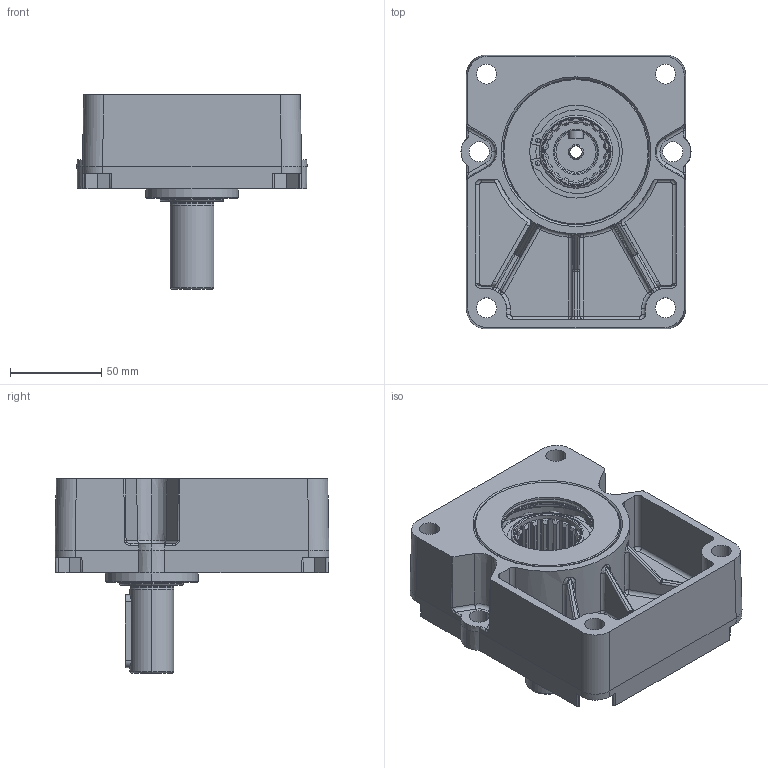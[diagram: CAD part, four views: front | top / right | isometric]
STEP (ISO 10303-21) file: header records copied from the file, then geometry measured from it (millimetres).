
FILE_DESCRIPTION (( 'STEP AP203' ), '1' );
FILE_NAME ('ASSIEME 25604-6.STEP', '2020-09-15T11:57:06', ( '' ), ( '' ), 'SwSTEP 2.0', 'SolidWorks 2020', '' );
FILE_SCHEMA (( 'CONFIG_CONTROL_DESIGN' ));
Length unit declared in the file: millimetre
Products named in the file (1): ASSIEME 25604-6
Bounding box: 126 x 150 x 106.3 mm (x, y, z)
Surface area: 114814.9 mm2 (no closed solid volume)
Topology: 0 solids, 26 shells, 580 faces, 1592 edges, 1017 vertices
Faces by surface type: cylinder 220, plane 173, cone 53, torus 46, sphere 44, bspline 44
Entity records: 20347 total; most frequent: CARTESIAN_POINT 6651, DIRECTION 2822, ORIENTED_EDGE 2760, EDGE_CURVE 1530, AXIS2_PLACEMENT_3D 1115, VERTEX_POINT 981, EDGE_LOOP 610, VECTOR 592
